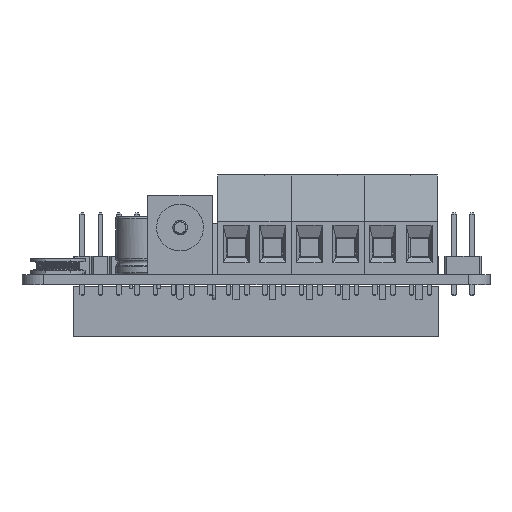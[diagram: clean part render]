
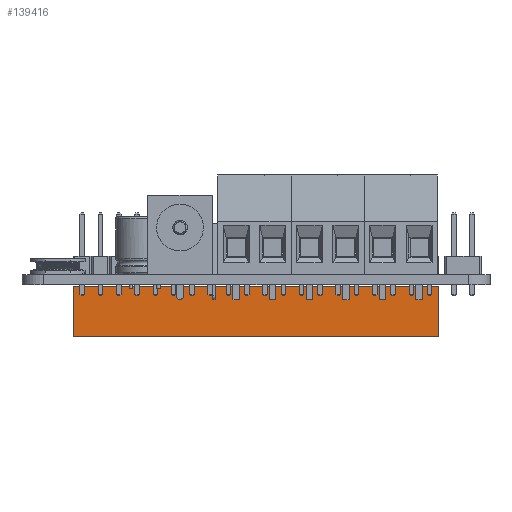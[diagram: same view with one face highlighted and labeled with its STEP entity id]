
A CAD part, front view. The second image highlights one B-rep face of the part: STEP entity #139416.
In plain terms, the highlighted free-form (B-spline) face has degree [1, 1] with [2, 2] control points.
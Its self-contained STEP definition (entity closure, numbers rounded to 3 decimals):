
#139416 = ADVANCED_FACE('',(#139417),#139447,.F.);
#139417 = FACE_BOUND('',#139418,.F.);
#139418 = EDGE_LOOP('',(#139419,#139428,#139435,#139442));
#139419 = ORIENTED_EDGE('',*,*,#139420,.T.);
#139420 = EDGE_CURVE('',#139421,#139423,#139425,.T.);
#139421 = VERTEX_POINT('',#139422);
#139422 = CARTESIAN_POINT('',(1.27,-49.53,0.));
#139423 = VERTEX_POINT('',#139424);
#139424 = CARTESIAN_POINT('',(1.27,-49.53,7.));
#139425 = B_SPLINE_CURVE_WITH_KNOTS('',1,(#139426,#139427),
  .UNSPECIFIED.,.F.,.F.,(2,2),(0.,7.),.PIECEWISE_BEZIER_KNOTS.);
#139426 = CARTESIAN_POINT('',(1.27,-49.53,0.));
#139427 = CARTESIAN_POINT('',(1.27,-49.53,7.));
#139428 = ORIENTED_EDGE('',*,*,#139429,.T.);
#139429 = EDGE_CURVE('',#139423,#139430,#139432,.T.);
#139430 = VERTEX_POINT('',#139431);
#139431 = CARTESIAN_POINT('',(1.27,1.27,7.));
#139432 = B_SPLINE_CURVE_WITH_KNOTS('',1,(#139433,#139434),
  .UNSPECIFIED.,.F.,.F.,(2,2),(0.,50.8),.PIECEWISE_BEZIER_KNOTS.);
#139433 = CARTESIAN_POINT('',(1.27,-49.53,7.));
#139434 = CARTESIAN_POINT('',(1.27,1.27,7.));
#139435 = ORIENTED_EDGE('',*,*,#139436,.F.);
#139436 = EDGE_CURVE('',#139437,#139430,#139439,.T.);
#139437 = VERTEX_POINT('',#139438);
#139438 = CARTESIAN_POINT('',(1.27,1.27,0.));
#139439 = B_SPLINE_CURVE_WITH_KNOTS('',1,(#139440,#139441),
  .UNSPECIFIED.,.F.,.F.,(2,2),(0.,7.),.PIECEWISE_BEZIER_KNOTS.);
#139440 = CARTESIAN_POINT('',(1.27,1.27,0.));
#139441 = CARTESIAN_POINT('',(1.27,1.27,7.));
#139442 = ORIENTED_EDGE('',*,*,#139443,.F.);
#139443 = EDGE_CURVE('',#139421,#139437,#139444,.T.);
#139444 = B_SPLINE_CURVE_WITH_KNOTS('',1,(#139445,#139446),
  .UNSPECIFIED.,.F.,.F.,(2,2),(0.,50.8),.PIECEWISE_BEZIER_KNOTS.);
#139445 = CARTESIAN_POINT('',(1.27,-49.53,0.));
#139446 = CARTESIAN_POINT('',(1.27,1.27,0.));
#139447 = B_SPLINE_SURFACE_WITH_KNOTS('',1,1,(
    (#139448,#139449)
    ,(#139450,#139451
  )),.UNSPECIFIED.,.F.,.F.,.F.,(2,2),(2,2),(0.,50.8),(-7.,0.),
  .PIECEWISE_BEZIER_KNOTS.);
#139448 = CARTESIAN_POINT('',(1.27,-49.53,7.));
#139449 = CARTESIAN_POINT('',(1.27,-49.53,0.));
#139450 = CARTESIAN_POINT('',(1.27,1.27,7.));
#139451 = CARTESIAN_POINT('',(1.27,1.27,0.));
